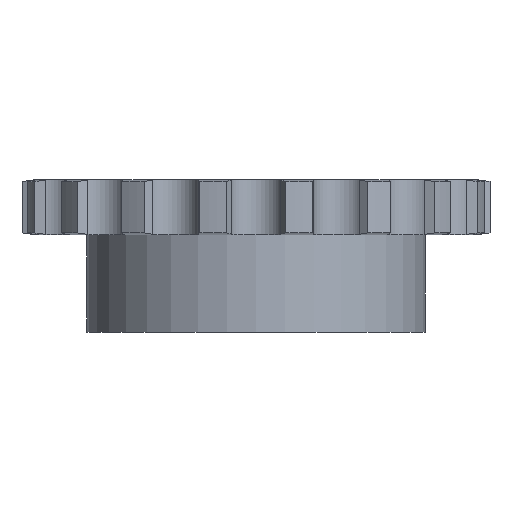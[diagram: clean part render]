
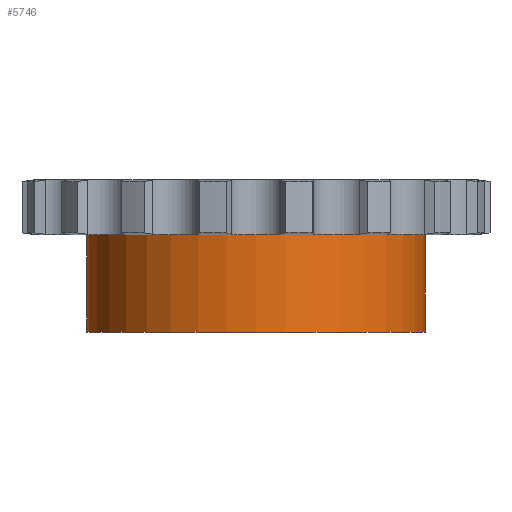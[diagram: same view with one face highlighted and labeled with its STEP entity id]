
A CAD part, front view. The second image highlights one B-rep face of the part: STEP entity #5746.
In plain terms, the highlighted cylindrical face has radius 50 mm (diameter 100 mm), a partial arc.
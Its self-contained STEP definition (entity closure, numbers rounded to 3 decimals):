
#1197=CARTESIAN_POINT('',(0.,0.,-8.1));
#1198=DIRECTION('',(0.,0.,1.));
#1199=DIRECTION('',(-1.,0.,0.));
#1200=AXIS2_PLACEMENT_3D('',#1197,#1198,#1199);
#2760=CARTESIAN_POINT('',(-50.,0.,
-19.5));
#2783=DIRECTION('',(0.,0.,1.));
#2784=VECTOR('',#2783,28.8);
#2785=CARTESIAN_POINT('',(50.,0.,-36.9));
#2786=LINE('',#2785,#2784);
#2906=CARTESIAN_POINT('',(-50.,0.,
-19.5));
#2907=CARTESIAN_POINT('',(-50.,-0.146,
-19.5));
#2908=CARTESIAN_POINT('',(-49.999,-0.435,
-19.521));
#2909=CARTESIAN_POINT('',(-49.993,-0.865,
-19.613));
#2910=CARTESIAN_POINT('',(-49.984,-1.275,
-19.766));
#2911=CARTESIAN_POINT('',(-49.973,-1.659,
-19.974));
#2912=CARTESIAN_POINT('',(-49.96,-2.007,
-20.234));
#2913=CARTESIAN_POINT('',(-49.947,-2.313,
-20.539));
#2914=CARTESIAN_POINT('',(-49.934,-2.572,
-20.885));
#2915=CARTESIAN_POINT('',(-49.923,-2.78,
-21.265));
#2916=CARTESIAN_POINT('',(-49.914,-2.93,
-21.668));
#2917=CARTESIAN_POINT('',(-49.909,-3.019,
-22.086));
#2918=CARTESIAN_POINT('',(-49.908,-3.038,
-22.362));
#2919=CARTESIAN_POINT('',(-49.908,-3.038,
-22.5));
#2924=DIRECTION('',(0.,0.,1.));
#2925=VECTOR('',#2924,11.4);
#2926=CARTESIAN_POINT('',(-50.,0.,
-19.5));
#2927=LINE('',#2926,#2925);
#2931=DIRECTION('',(0.,0.,1.));
#2932=VECTOR('',#2931,11.4);
#2933=CARTESIAN_POINT('',(-50.,0.,-36.9));
#2934=LINE('',#2933,#2932);
#2938=CARTESIAN_POINT('',(-49.908,-3.038,
-22.5));
#2939=CARTESIAN_POINT('',(-49.908,-3.038,
-22.61));
#2940=CARTESIAN_POINT('',(-49.909,-3.024,
-22.865));
#2941=CARTESIAN_POINT('',(-49.913,-2.949,
-23.265));
#2942=CARTESIAN_POINT('',(-49.922,-2.802,
-23.687));
#2943=CARTESIAN_POINT('',(-49.933,-2.593,
-24.085));
#2944=CARTESIAN_POINT('',(-49.946,-2.326,
-24.446));
#2945=CARTESIAN_POINT('',(-49.96,-2.01,
-24.765));
#2946=CARTESIAN_POINT('',(-49.973,-1.648,
-25.034));
#2947=CARTESIAN_POINT('',(-49.985,-1.248,
-25.248));
#2948=CARTESIAN_POINT('',(-49.994,-0.819,
-25.401));
#2949=CARTESIAN_POINT('',(-49.999,-0.399,
-25.483));
#2950=CARTESIAN_POINT('',(-50.,-0.124,
-25.5));
#2951=CARTESIAN_POINT('',(-50.,0.,
-25.5));
#2964=CARTESIAN_POINT('',(0.,0.,-36.9));
#2965=DIRECTION('',(0.,0.,-1.));
#2966=DIRECTION('',(1.,0.,0.));
#2967=AXIS2_PLACEMENT_3D('',#2964,#2965,#2966);
#3329=CARTESIAN_POINT('',(-50.,0.,-36.9));
#3330=CARTESIAN_POINT('',(50.,0.,-36.9));
#3331=VERTEX_POINT('',#3329);
#3332=VERTEX_POINT('',#3330);
#3333=CARTESIAN_POINT('',(50.,0.,-8.1));
#3334=VERTEX_POINT('',#3333);
#3335=CARTESIAN_POINT('',(-50.,0.,-8.1));
#3336=VERTEX_POINT('',#3335);
#3506=VERTEX_POINT('',#2760);
#3509=VERTEX_POINT('',#2919);
#3511=VERTEX_POINT('',#2951);
#5730=CARTESIAN_POINT('',(0.,0.,8.1));
#5731=DIRECTION('',(0.,0.,1.));
#5732=DIRECTION('',(1.,0.,0.));
#5733=AXIS2_PLACEMENT_3D('',#5730,#5731,#5732);
#5734=CYLINDRICAL_SURFACE('',#5733,50.);
#5735=ORIENTED_EDGE('',*,*,#5720,.F.);
#5736=ORIENTED_EDGE('',*,*,#5327,.T.);
#5737=ORIENTED_EDGE('',*,*,#4718,.T.);
#5738=ORIENTED_EDGE('',*,*,#5324,.F.);
#5740=ORIENTED_EDGE('',*,*,#5739,.T.);
#5741=ORIENTED_EDGE('',*,*,#5320,.T.);
#5743=ORIENTED_EDGE('',*,*,#5742,.F.);
#5744=EDGE_LOOP('',(#5735,#5736,#5737,#5738,#5740,#5741,#5743));
#5745=FACE_OUTER_BOUND('',#5744,.F.);
#5746=ADVANCED_FACE('',(#5745),#5734,.T.);
#1201=CIRCLE('',#1200,50.);
#2920=B_SPLINE_CURVE_WITH_KNOTS('',3,(#2906,#2907,#2908,#2909,#2910,#2911,#2912,
#2913,#2914,#2915,#2916,#2917,#2918,#2919),.UNSPECIFIED.,.F.,.F.,(4,1,1,1,1,1,1,
1,1,1,1,4),(0.,0.091,0.182,0.273,
0.364,0.455,0.545,0.636,
0.727,0.818,0.909,1.),.UNSPECIFIED.);
#2952=B_SPLINE_CURVE_WITH_KNOTS('',3,(#2938,#2939,#2940,#2941,#2942,#2943,#2944,
#2945,#2946,#2947,#2948,#2949,#2950,#2951),.UNSPECIFIED.,.F.,.F.,(4,1,1,1,1,1,1,
1,1,1,1,4),(0.,0.073,0.167,0.262,
0.356,0.45,0.545,0.639,
0.734,0.828,0.922,1.),.UNSPECIFIED.);
#2968=CIRCLE('',#2967,50.);
#4718=EDGE_CURVE('',#3336,#3334,#1201,.T.);
#5320=EDGE_CURVE('',#3331,#3511,#2934,.T.);
#5324=EDGE_CURVE('',#3332,#3334,#2786,.T.);
#5327=EDGE_CURVE('',#3506,#3336,#2927,.T.);
#5720=EDGE_CURVE('',#3506,#3509,#2920,.T.);
#5739=EDGE_CURVE('',#3332,#3331,#2968,.T.);
#5742=EDGE_CURVE('',#3509,#3511,#2952,.T.);
